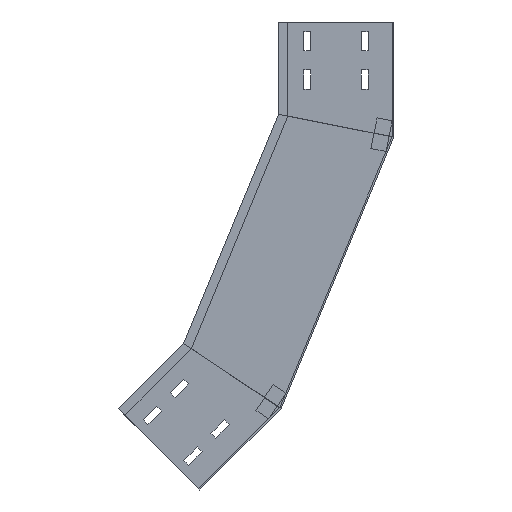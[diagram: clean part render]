
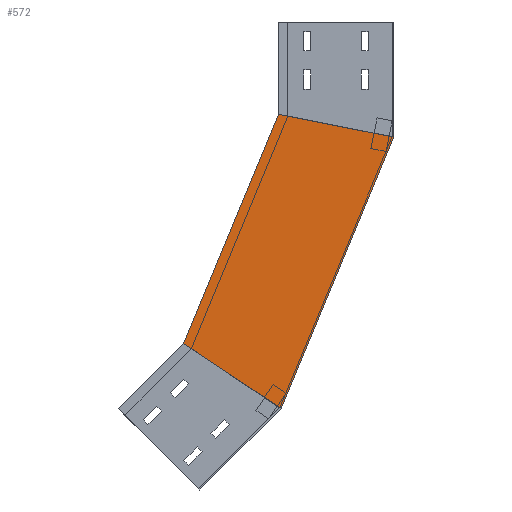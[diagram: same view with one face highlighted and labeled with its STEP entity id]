
A CAD part, left-side view. The second image highlights one B-rep face of the part: STEP entity #572.
In plain terms, the highlighted planar face has unit normal (-1, 0, 0) as drawn and (1, 0, 0) by its records, which use the part's own axes.
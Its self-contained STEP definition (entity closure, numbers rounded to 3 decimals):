
#31 = EDGE_CURVE ( 'NONE', #1435, #1715, #1240, .T. ) ;
#41 = VERTEX_POINT ( 'NONE', #140 ) ;
#46 = VECTOR ( 'NONE', #96, 1000. ) ;
#92 = CARTESIAN_POINT ( 'NONE',  ( 0., 150., -120.163 ) ) ;
#96 = DIRECTION ( 'NONE',  ( 0., 0.383, -0.924 ) ) ;
#140 = CARTESIAN_POINT ( 'NONE',  ( 0., 273.732, -418.878 ) ) ;
#186 = PLANE ( 'NONE',  #1288 ) ;
#224 = LINE ( 'NONE', #1637, #437 ) ;
#369 = CARTESIAN_POINT ( 'NONE',  ( 0., 208.695, -462.334 ) ) ;
#437 = VECTOR ( 'NONE', #1478, 1000. ) ;
#482 = CARTESIAN_POINT ( 'NONE',  ( 0., 146.568, -503.846 ) ) ;
#559 = EDGE_CURVE ( 'NONE', #1715, #1806, #224, .T. ) ;
#567 = VECTOR ( 'NONE', #924, 1000. ) ;
#572 = ADVANCED_FACE ( 'NONE', ( #995 ), #186, .F. ) ;
#601 = EDGE_CURVE ( 'NONE', #41, #1806, #1770, .T. ) ;
#677 = DIRECTION ( 'NONE',  ( -1., 0., 0. ) ) ;
#752 = CARTESIAN_POINT ( 'NONE',  ( 0., 138.582, -92.597 ) ) ;
#832 = ORIENTED_EDGE ( 'NONE', *, *, #31, .T. ) ;
#855 = DIRECTION ( 'NONE',  ( 0., -0.831, -0.556 ) ) ;
#924 = DIRECTION ( 'NONE',  ( 0., -0.981, -0.195 ) ) ;
#994 = VECTOR ( 'NONE', #855, 1000. ) ;
#995 = FACE_OUTER_BOUND ( 'NONE', #1800, .T. ) ;
#1014 = EDGE_CURVE ( 'NONE', #1435, #41, #1380, .T. ) ;
#1136 = ORIENTED_EDGE ( 'NONE', *, *, #601, .F. ) ;
#1240 = LINE ( 'NONE', #1412, #567 ) ;
#1288 = AXIS2_PLACEMENT_3D ( 'NONE', #1459, #677, #1927 ) ;
#1380 = LINE ( 'NONE', #752, #46 ) ;
#1382 = CARTESIAN_POINT ( 'NONE',  ( 0., 0., -150. ) ) ;
#1412 = CARTESIAN_POINT ( 'NONE',  ( 0., 28.701, -144.291 ) ) ;
#1435 = VERTEX_POINT ( 'NONE', #92 ) ;
#1459 = CARTESIAN_POINT ( 'NONE',  ( 0., 0., -150. ) ) ;
#1478 = DIRECTION ( 'NONE',  ( 0., 0.383, -0.924 ) ) ;
#1520 = ORIENTED_EDGE ( 'NONE', *, *, #559, .T. ) ;
#1637 = CARTESIAN_POINT ( 'NONE',  ( 0., 0., -150. ) ) ;
#1684 = ORIENTED_EDGE ( 'NONE', *, *, #1014, .F. ) ;
#1715 = VERTEX_POINT ( 'NONE', #1382 ) ;
#1770 = LINE ( 'NONE', #369, #994 ) ;
#1800 = EDGE_LOOP ( 'NONE', ( #1684, #832, #1520, #1136 ) ) ;
#1806 = VERTEX_POINT ( 'NONE', #482 ) ;
#1927 = DIRECTION ( 'NONE',  ( 0., 0., 1. ) ) ;
